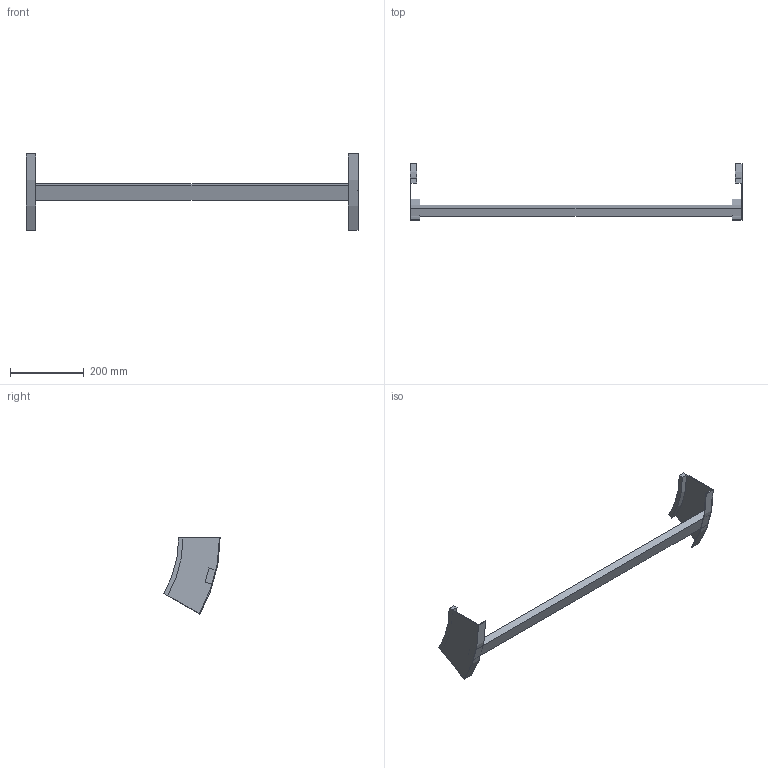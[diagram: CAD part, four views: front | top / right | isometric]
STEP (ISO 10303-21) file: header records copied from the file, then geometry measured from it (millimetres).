
FILE_DESCRIPTION (( 'STEP AP214' ), '1' );
FILE_NAME ('B2X32B3J900XX.step', '2025-03-20T10:00:42', ( '' ), ( '' ), 'SwSTEP 2.0', 'SolidWorks 2023', '' );
FILE_SCHEMA (( 'AUTOMOTIVE_DESIGN' ));
Length unit declared in the file: millimetre
Products named in the file (3): TRAVERSINO_900; B2X32B3J900XX; B2_LONGH.SALITA_30°_H112.5_R300
Assembly tree (3 placements, depth 2):
  B2X32B3J900XX
    B2_LONGH.SALITA_30°_H112.5_R300  x2
    TRAVERSINO_900
Bounding box: 900 x 152.69 x 206.25 mm (x, y, z)
Volume: 892770.5 mm3; surface area: 229135.9 mm2
Topology: 3 solids, 3 shells, 26 faces, 60 edges, 40 vertices
Faces by surface type: plane 18, cylinder 8
Entity records: 544 total; most frequent: DIRECTION 88, CARTESIAN_POINT 82, ORIENTED_EDGE 72, EDGE_CURVE 36, AXIS2_PLACEMENT_3D 30, VECTOR 28, LINE 28, VERTEX_POINT 24
